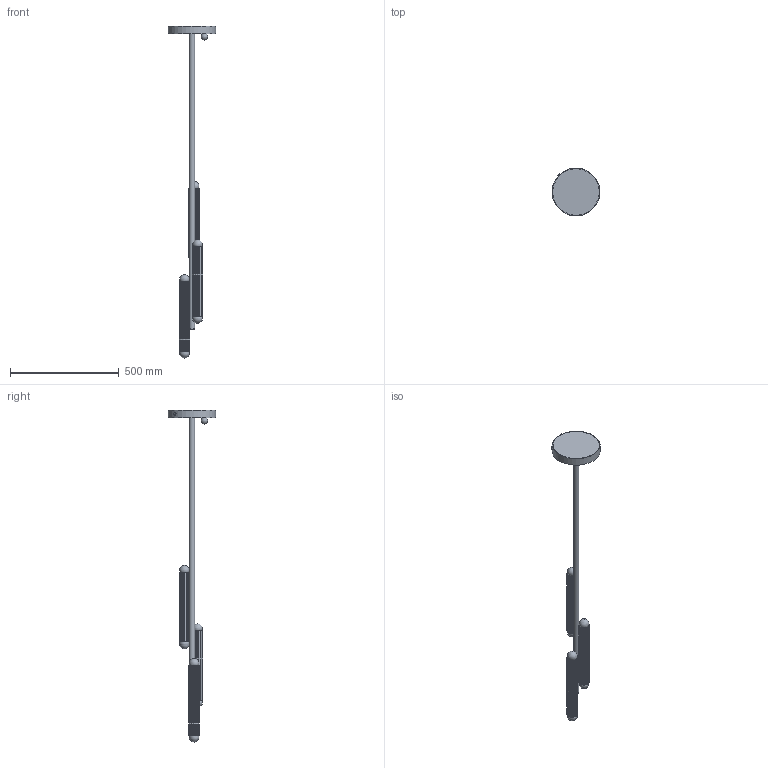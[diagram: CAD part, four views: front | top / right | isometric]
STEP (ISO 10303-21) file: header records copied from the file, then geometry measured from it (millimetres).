
FILE_DESCRIPTION(/* description */ (''),/* implementation_level */ '2;1');
FILE_NAME(/* name */ 'B731 Westa Floor CE v1 - katalog.stp',/* time_stamp */ '2025-05-26T14:05:16+02:00',/* author */ ('Lukasz'),/* organization */ (''),/* preprocessor_version */ 'ST-DEVELOPER v20.1',/* originating_system */ 'Autodesk Inventor 2026',/* authorisation */ '');
FILE_SCHEMA (('AUTOMOTIVE_DESIGN { 1 0 10303 214 3 1 1 }'));
Length unit declared in the file: millimetre
Products named in the file (1): B731 Westa Floor CE v1 - katalog
Bounding box: 219.16 x 219.16 x 1527.8 mm (x, y, z)
Volume: 2617486.2 mm3; surface area: 665175 mm2
Topology: 24 solids, 24 shells, 566 faces, 1544 edges, 1027 vertices
Faces by surface type: plane 271, cylinder 230, torus 30, cone 16, bspline 12, sphere 7
Full cylindrical faces by diameter (mm): 2.693 x2, 3 x2, 4 x11, 5.5 x2, 7 x3, 10 x1, 11.917 x1, 12 x6, 13 x1, 17 x6, 20 x1, 22 x1, 25 x2, 36.5 x2, 41.8 x2, 214 x1, 220 x1
Entity records: 20213 total; most frequent: CARTESIAN_POINT 4833, DIRECTION 3119, ORIENTED_EDGE 3072, EDGE_CURVE 1536, AXIS2_PLACEMENT_3D 1125, VERTEX_POINT 1026, LINE 869, VECTOR 869
